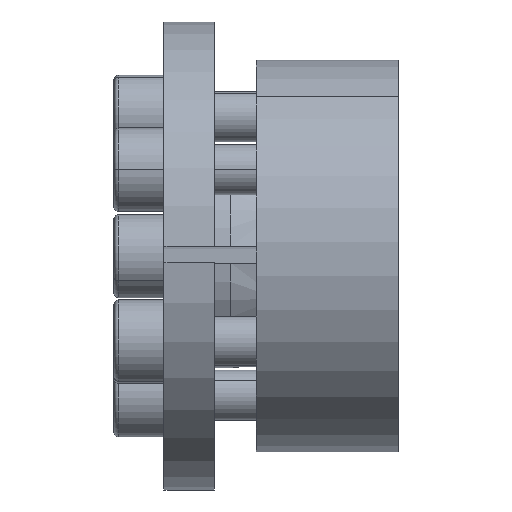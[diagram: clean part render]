
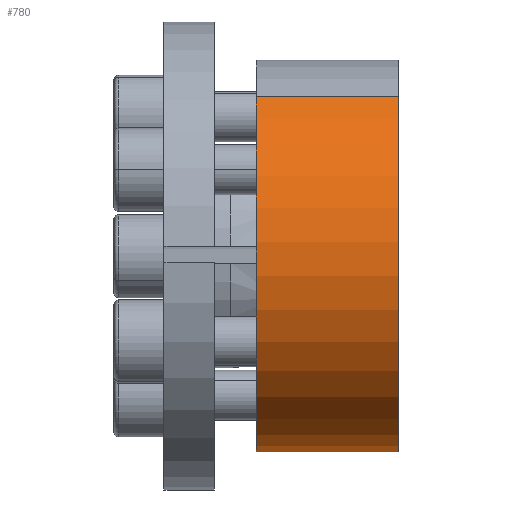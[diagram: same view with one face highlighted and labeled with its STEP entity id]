
A CAD part, top view. The second image highlights one B-rep face of the part: STEP entity #780.
In plain terms, the highlighted cylindrical face has radius 23.5 mm (diameter 47 mm), a partial arc.
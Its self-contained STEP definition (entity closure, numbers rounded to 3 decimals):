
#138 = LINE ( 'NONE', #4344, #2812 ) ;
#287 = DIRECTION ( 'NONE',  ( -1., 0., 0. ) ) ;
#340 = CARTESIAN_POINT ( 'NONE',  ( 6.528, 3.159, 0.007 ) ) ;
#597 = EDGE_CURVE ( 'NONE', #4170, #4389, #138, .T. ) ;
#606 = DIRECTION ( 'NONE',  ( 0., -0.809, -0.588 ) ) ;
#780 = ADVANCED_FACE ( 'NONE', ( #1108 ), #3828, .T. ) ;
#882 = DIRECTION ( 'NONE',  ( -1., 0., 0. ) ) ;
#1108 = FACE_OUTER_BOUND ( 'NONE', #3912, .T. ) ;
#1284 = ORIENTED_EDGE ( 'NONE', *, *, #2042, .F. ) ;
#1357 = DIRECTION ( 'NONE',  ( -1., 0., 0. ) ) ;
#1638 = DIRECTION ( 'NONE',  ( 0., -0.809, -0.588 ) ) ;
#1641 = ORIENTED_EDGE ( 'NONE', *, *, #2438, .F. ) ;
#1797 = DIRECTION ( 'NONE',  ( -1., 0., 0. ) ) ;
#1815 = CARTESIAN_POINT ( 'NONE',  ( -10.472, 3.159, 0.007 ) ) ;
#1897 = CIRCLE ( 'NONE', #4309, 23.5 ) ;
#1951 = CARTESIAN_POINT ( 'NONE',  ( -10.472, 3.159, 0.007 ) ) ;
#2020 = AXIS2_PLACEMENT_3D ( 'NONE', #1815, #1797, #1638 ) ;
#2042 = EDGE_CURVE ( 'NONE', #3956, #4389, #1897, .T. ) ;
#2187 = CARTESIAN_POINT ( 'NONE',  ( 6.528, 22.17, 13.82 ) ) ;
#2205 = DIRECTION ( 'NONE',  ( 0., -0.809, -0.588 ) ) ;
#2228 = EDGE_CURVE ( 'NONE', #4124, #4170, #4099, .T. ) ;
#2423 = CARTESIAN_POINT ( 'NONE',  ( -10.472, -15.853, -13.806 ) ) ;
#2436 = ORIENTED_EDGE ( 'NONE', *, *, #597, .T. ) ;
#2438 = EDGE_CURVE ( 'NONE', #4124, #3956, #2468, .T. ) ;
#2468 = LINE ( 'NONE', #4322, #4148 ) ;
#2675 = ORIENTED_EDGE ( 'NONE', *, *, #2228, .T. ) ;
#2812 = VECTOR ( 'NONE', #287, 1000. ) ;
#3227 = DIRECTION ( 'NONE',  ( -1., 0., 0. ) ) ;
#3279 = AXIS2_PLACEMENT_3D ( 'NONE', #340, #882, #2205 ) ;
#3828 = CYLINDRICAL_SURFACE ( 'NONE', #2020, 23.5 ) ;
#3912 = EDGE_LOOP ( 'NONE', ( #2675, #2436, #1284, #1641 ) ) ;
#3956 = VERTEX_POINT ( 'NONE', #2423 ) ;
#3976 = CARTESIAN_POINT ( 'NONE',  ( 6.528, -15.853, -13.806 ) ) ;
#4099 = CIRCLE ( 'NONE', #3279, 23.5 ) ;
#4124 = VERTEX_POINT ( 'NONE', #3976 ) ;
#4147 = CARTESIAN_POINT ( 'NONE',  ( -10.472, 22.17, 13.82 ) ) ;
#4148 = VECTOR ( 'NONE', #3227, 1000. ) ;
#4170 = VERTEX_POINT ( 'NONE', #2187 ) ;
#4309 = AXIS2_PLACEMENT_3D ( 'NONE', #1951, #1357, #606 ) ;
#4322 = CARTESIAN_POINT ( 'NONE',  ( -10.472, -15.853, -13.806 ) ) ;
#4344 = CARTESIAN_POINT ( 'NONE',  ( -10.472, 22.17, 13.82 ) ) ;
#4389 = VERTEX_POINT ( 'NONE', #4147 ) ;
